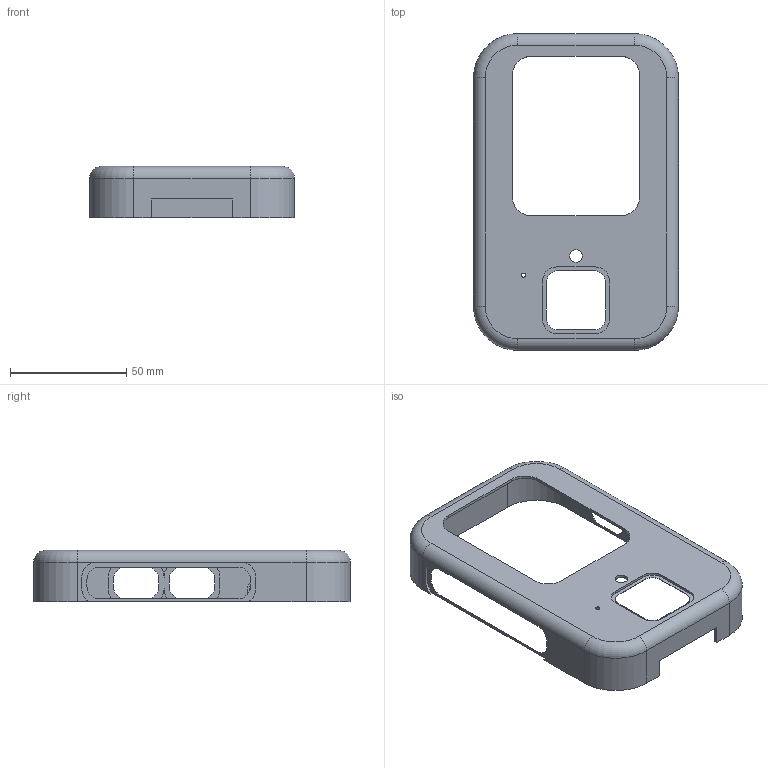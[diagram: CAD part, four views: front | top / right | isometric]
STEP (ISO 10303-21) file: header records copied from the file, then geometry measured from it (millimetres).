
FILE_DESCRIPTION(('Open CASCADE Model'),'2;1');
FILE_NAME('Open CASCADE Shape Model','2026-09-04T20:35:46',('Author'),( 'Open CASCADE'),'Open CASCADE STEP processor 7.7','Open CASCADE 7.7' ,'Unknown');
FILE_SCHEMA(('AUTOMOTIVE_DESIGN { 1 0 10303 214 1 1 1 1 }'));
Length unit declared in the file: millimetre
Products named in the file (1): Open CASCADE STEP translator 7.7 4
Bounding box: 88 x 136 x 22 mm (x, y, z)
Volume: 15085.6 mm3; surface area: 27671.5 mm2
Topology: 1 solids, 1 shells, 130 faces, 359 edges, 232 vertices
Faces by surface type: cylinder 62, plane 60, torus 8
Full cylindrical faces by diameter (mm): 1.8 x1, 5.4 x1
Entity records: 8740 total; most frequent: CARTESIAN_POINT 1834, DIRECTION 1227, ORIENTED_EDGE 718, PCURVE 718, DEFINITIONAL_REPRESENTATION 718, LINE 623, VECTOR 623, EDGE_CURVE 359
